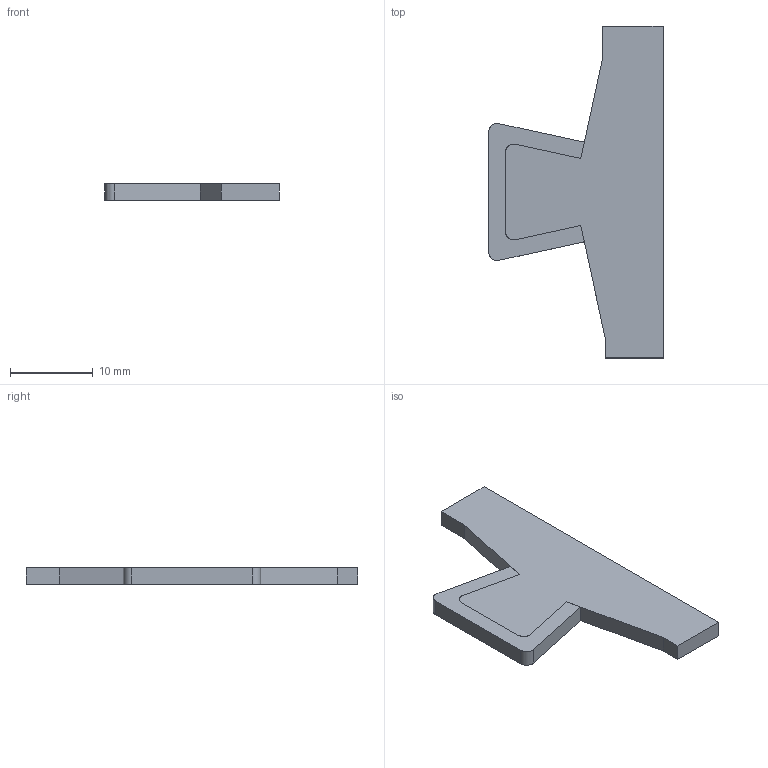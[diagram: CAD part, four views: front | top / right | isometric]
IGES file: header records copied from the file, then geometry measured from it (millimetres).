
Start section: SolidWorks IGES file using analytic representation for surfaces
Global section: file name: C:\Documents and Settings\URETIM3\Desktop\yeni katalog tolgay düzenli\E kataloðu\AY  ALT YATAKLAMA VE YAN DESTEK PROFÝLÝ\206 AY1 101.IGS; native system: SolidWorks 2006 by SolidWorks Corporation; preprocessor: SolidWorks 2006 by SolidWorks Corporation; author: URETIM3; date: 060913.094125; units: millimetre
Bounding box: 21 x 40 x 2 mm (x, y, z)
Surface area: 1388.5 mm2 (no closed solid volume)
Topology: 0 solids, 0 shells, 28 faces, 228 edges, 228 vertices
Faces by surface type: bspline 22, revolution 6
